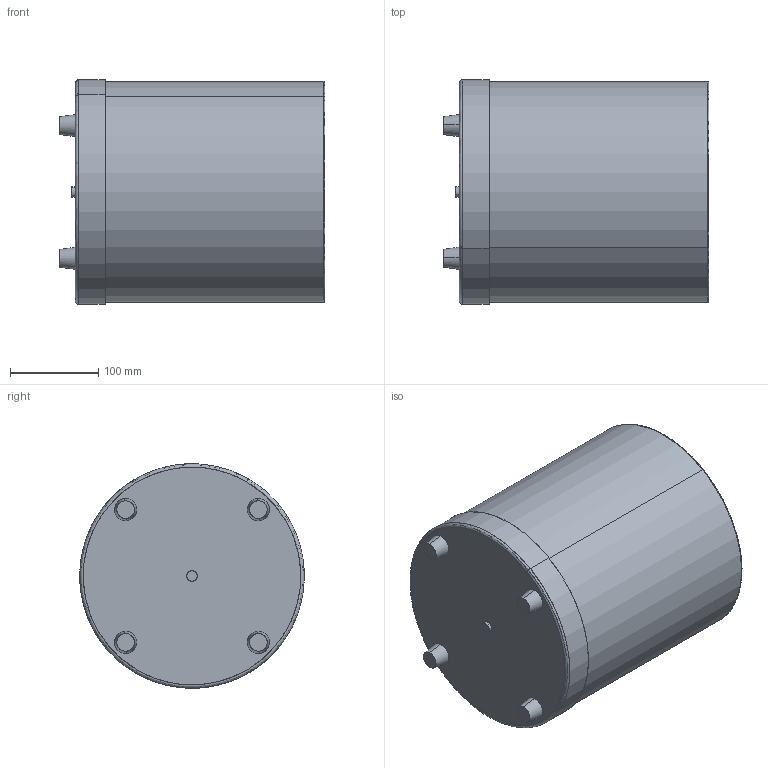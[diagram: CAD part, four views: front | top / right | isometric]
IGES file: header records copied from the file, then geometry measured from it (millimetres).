
Start section: SolidWorks IGES file using analytic representation for surfaces
Global section: file name: C:\Users\Agus\Desktop\AROMAS\Libreria modelos\1154\S1154\C1154.IGS; native system: SolidWorks 2018; preprocessor: SolidWorks 2018; author: Agus; date: 180903.135828; units: millimetre
Bounding box: 300 x 254 x 254 mm (x, y, z)
Surface area: 613032.8 mm2 (no closed solid volume)
Topology: 0 solids, 0 shells, 46 faces, 1080 edges, 1080 vertices
Faces by surface type: bspline 24, revolution 22
